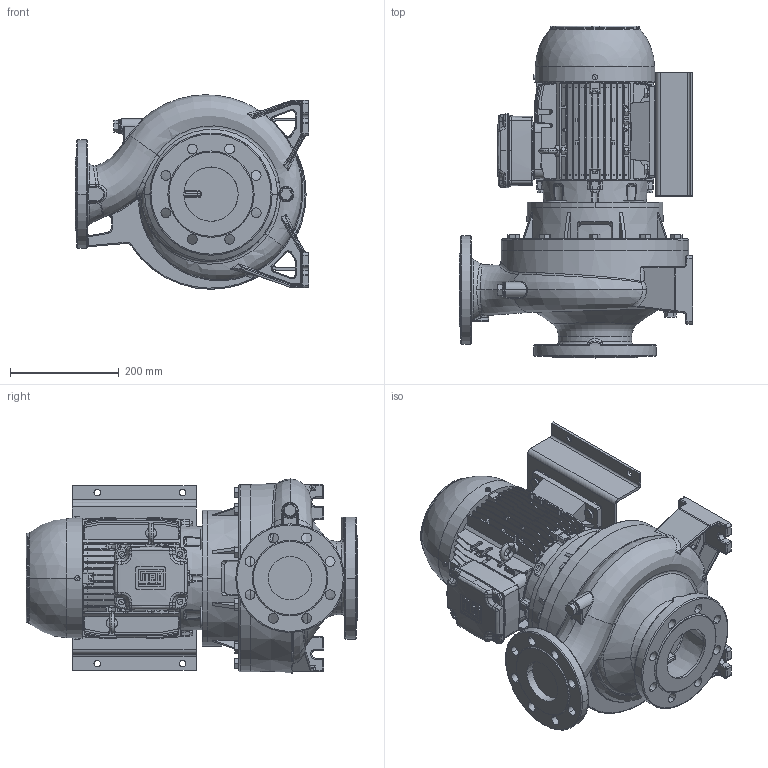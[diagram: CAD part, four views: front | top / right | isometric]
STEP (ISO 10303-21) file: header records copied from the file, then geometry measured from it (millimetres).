
FILE_DESCRIPTION (( 'STEP AP214' ), '1' );
FILE_NAME ('3LS4 80-200_4.0_(112M)_W21.STEP', '2026-10-05T01:41:29', ( '' ), ( '' ), 'SwSTEP 2.0', 'SolidWorks 2024', '' );
FILE_SCHEMA (( 'AUTOMOTIVE_DESIGN' ));
Length unit declared in the file: inch
Products named in the file (4): 80-200_4.STEP; 112M ALIE3W21T_B35.STEP; 3LS4 80-200_4.0_(112M)_W21; 3SF4_80-200_4.STEP
Assembly tree (3 placements, depth 3):
  3LS4 80-200_4.0_(112M)_W21
    80-200_4.STEP
      3SF4_80-200_4.STEP
      112M ALIE3W21T_B35.STEP
Bounding box: 430 x 611.05 x 358.11 mm (x, y, z)
Volume: 28009455.7 mm3; surface area: 1886307.6 mm2
Topology: 15 solids, 17 shells, 4507 faces, 11896 edges, 7677 vertices
Faces by surface type: plane 2456, cylinder 807, bspline 583, cone 314, torus 295, sphere 52
Entity records: 197171 total; most frequent: CARTESIAN_POINT 92560, ORIENTED_EDGE 23788, DIRECTION 18522, EDGE_CURVE 11894, VERTEX_POINT 7677, LINE 6524, VECTOR 6524, AXIS2_PLACEMENT_3D 5999
